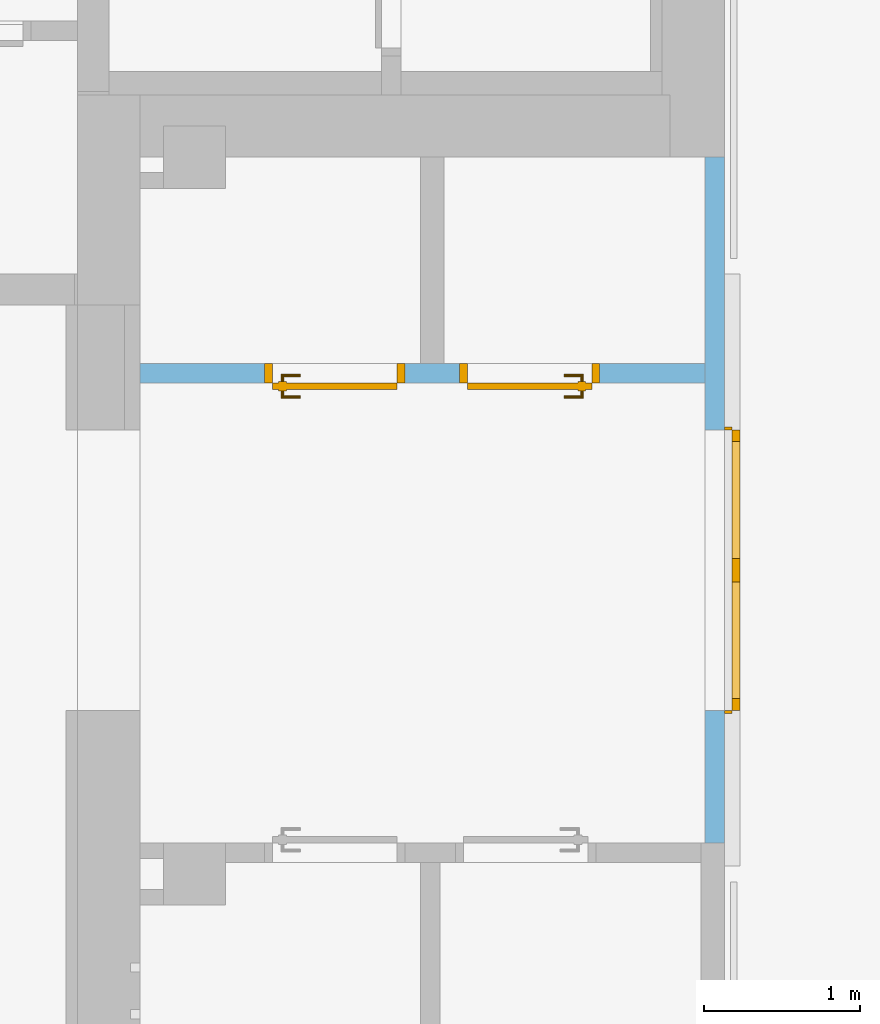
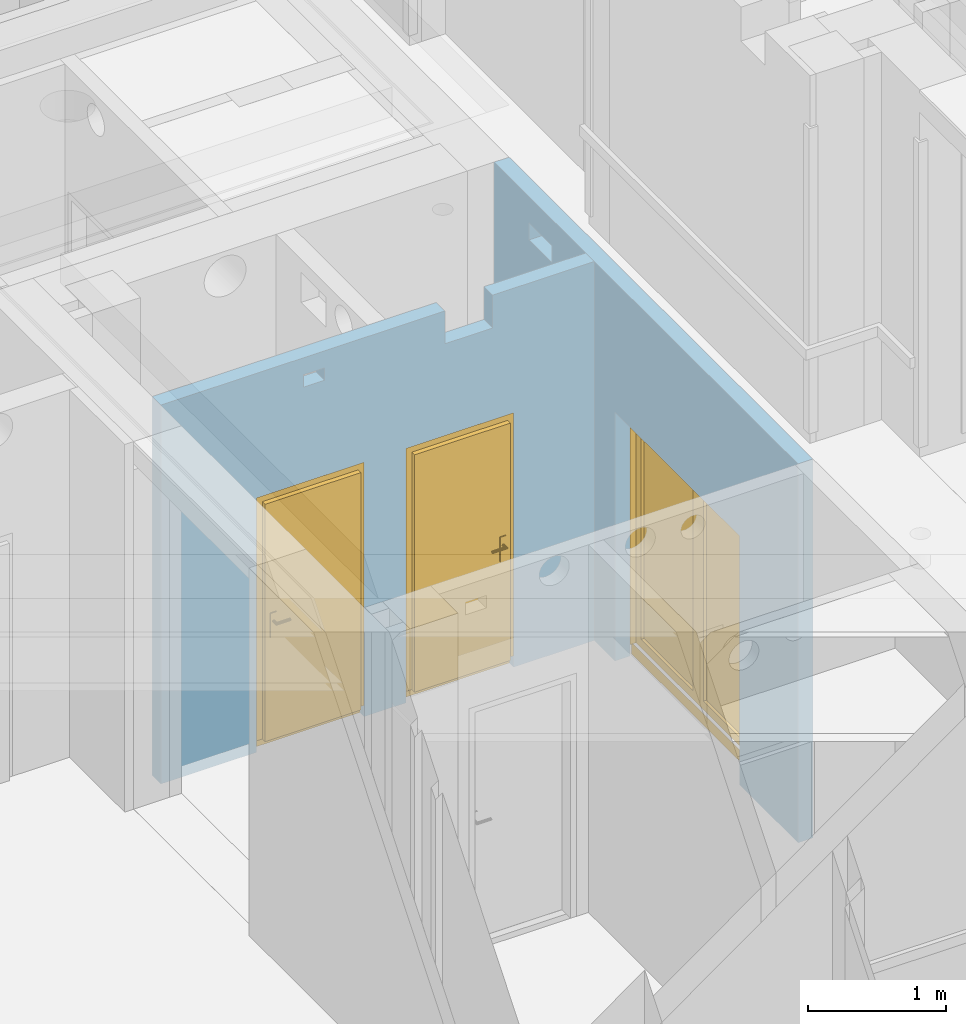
# One storey, part 76 of 140: 3 doors, 6 openings, plus 2 elements that do not belong to this part.
"""IFC4 building model written with IfcOpenShell, lengths in metres."""

from ifc_helpers import new_model, entity, si_unit, converted_unit, derived_unit, frame, frame_2d, origin, origin_with_axes, place, context, subcontext, project, spatial, polyline, rectangle, outline, extrude, closed_shell, open_shell, surface_model, source, transform, mapped, material, layer, layer_set, layer_usage, type_object, element, fill, save


model = new_model("IFC4")

# Units and contexts
model_context = context("Model", 3, precision=1e-05, world=origin())
body_context = subcontext(model_context, "Body", "Model", "MODEL_VIEW")
ifc_project = project(units=[si_unit("LENGTHUNIT", "METRE"), si_unit("AREAUNIT", "SQUARE_METRE"), si_unit("VOLUMEUNIT", "CUBIC_METRE"), si_unit("MASSUNIT", "GRAM", prefix="KILO"), converted_unit("PLANEANGLEUNIT", "DEGREE", entity("IfcPlaneAngleMeasure", 0.0174532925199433), si_unit("PLANEANGLEUNIT", "RADIAN"), dimensions=[0, 0, 0, 0, 0, 0, 0]), derived_unit("THERMALTRANSMITTANCEUNIT", [(si_unit("POWERUNIT", "WATT"), 1), (si_unit("THERMODYNAMICTEMPERATUREUNIT", "KELVIN"), -1), (si_unit("LENGTHUNIT", "METRE"), -2)]), derived_unit("VOLUMETRICFLOWRATEUNIT", [(si_unit("LENGTHUNIT", "METRE"), 3), (converted_unit("TIMEUNIT", "hour", entity("IfcTimeMeasure", 3600.0), si_unit("TIMEUNIT", "SECOND"), dimensions=[0, 0, 1, 0, 0, 0, 0]), -1), (si_unit("LENGTHUNIT", "METRE"), -1)])], contexts=[model_context])

# Site, building, storey
site_placement = place(None, origin())
site = spatial("IfcSite", under=ifc_project, at=site_placement, Name="3. ASŘ", CompositionType="ELEMENT")
building_placement = place(site_placement, origin())
building = spatial("IfcBuilding", under=site, at=building_placement, Name="Pavilon C", CompositionType="ELEMENT")
storey_placement = place(building_placement, origin())
storey = spatial("IfcBuildingStorey", under=building, at=storey_placement, Name="Půdorys 1.NP", CompositionType="ELEMENT", Elevation=0.0)

# Wall, openings, door
ifc_material_1 = material(Name="SDK - 1 KCE + DVOJITÉ OPLÁŠTĚNÍ")
ifc_layer_1 = layer(ifc_material_1, 0.125)
ifc_layer_set_1 = layer_set([ifc_layer_1])
ifc_layer_usage_1 = layer_usage(ifc_layer_set_1, "AXIS2", "POSITIVE", 0.0)
wall_1_placement = place(storey_placement, frame((40.95, -11.6, -0.1), z_axis=(0.0, 0.0, 1.0), x_axis=(0.0, 1.0, 0.0)))
wall_1 = element("IfcWall", 1, at=wall_1_placement, inside=storey, material=ifc_layer_usage_1, Name="SDK - 1 KCE + DVOJITÉ OPLÁŠTĚNÍ", context=body_context, shape_type="SweptSolid", body=[
    extrude(rectangle(XDim=4.4, YDim=0.125, at=frame_2d((2.2, 0.0625), x_axis=(1.0, 0.0))), origin_with_axes(), (0.0, 0.0, 1.0), 3.35),
])
opening_1_placement = place(wall_1_placement, frame((2.64999999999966, 0.125, 0.0), z_axis=(0.0, -1.0, 0.0), x_axis=(0.0, 0.0, 1.0)))
opening_1 = element("IfcOpeningElement", 2, at=opening_1_placement, cuts=wall_1, Name="Dveřní otvor", ObjectType="Opening", context=body_context, shape_type="SweptSolid", body=[
    extrude(outline(polyline([(0.0, 1.8), (2.2, 1.8), (2.2, 0.0), (0.0, 0.0), (0.0, 1.8)])), origin_with_axes(), (0.0, 0.0, 1.0), 0.125),
])
opening_2_placement = place(wall_1_placement, frame((3.56300000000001, 7.27595761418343e-15, 2.97), z_axis=(0.0, 1.0, 0.0), x_axis=(0.0, 0.0, 1.0)))
element("IfcOpeningElement", 3, at=opening_2_placement, cuts=wall_1, Name="ZTI", ObjectType="Opening", context=body_context, shape_type="SweptSolid", body=[
    extrude(outline(polyline([(0.0, 0.33), (0.15, 0.33), (0.15, 0.0), (0.0, 0.0), (0.0, 0.33)])), origin_with_axes(), (0.0, 0.0, 1.0), 0.125),
])
door_type_1 = type_object("IfcDoorType", Name="II.DH01", OperationType="NOTDEFINED", ParameterTakesPrecedence=False, PredefinedType="DOOR")
shared_shape_1 = source(origin_with_axes(), body_context, "Body", "SurfaceModel", [
    surface_model("IfcShellBasedSurfaceModel", [(0.0, 0.025, 0.0), (1.84, 0.025, 0.0), (1.84, 0.025, 0.1), (0.0, 0.025, 0.1)], [open_shell([[[0, 1, 2, 3]]], orient=[[False]])]),
    surface_model("IfcShellBasedSurfaceModel", [(0.0, 0.0500000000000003, 2.22), (0.0, 0.05, 0.101), (0.02, 0.05, 0.101), (0.02, 0.0500000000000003, 2.22), (0.0, 0.0, 0.101), (0.0, 2.62900812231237e-16, 2.22), (0.02, 2.62900812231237e-16, 2.22), (0.02, 0.0, 0.101)], [closed_shell([[[0, 1, 2, 3]], [[4, 5, 6, 7]], [[1, 0, 5, 4]], [[2, 1, 4, 7]], [[3, 2, 7, 6]], [[0, 3, 6, 5]]], orient=[[False], [False], [False], [False], [False], [False]])]),
    surface_model("IfcShellBasedSurfaceModel", [(1.82, 0.0500000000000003, 2.22), (1.82, 0.05, 0.101), (1.84, 0.05, 0.101), (1.84, 0.0500000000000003, 2.22), (1.82, 0.0, 0.101), (1.82, 2.62900812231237e-16, 2.22), (1.84, 2.62900812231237e-16, 2.22), (1.84, 0.0, 0.101)], [closed_shell([[[0, 1, 2, 3]], [[4, 5, 6, 7]], [[1, 0, 5, 4]], [[2, 1, 4, 7]], [[3, 2, 7, 6]], [[0, 3, 6, 5]]], orient=[[False], [False], [False], [False], [False], [False]])]),
    surface_model("IfcShellBasedSurfaceModel", [(0.02, 0.0500000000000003, 2.22), (0.02, 0.0500000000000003, 2.2), (1.82, 0.0500000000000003, 2.2), (1.82, 0.0500000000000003, 2.22), (0.02, 2.55795384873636e-16, 2.2), (0.02, 2.55795384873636e-16, 2.22), (1.82, 2.55795384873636e-16, 2.22), (1.82, 2.55795384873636e-16, 2.2)], [closed_shell([[[0, 1, 2, 3]], [[4, 5, 6, 7]], [[1, 0, 5, 4]], [[2, 1, 4, 7]], [[3, 2, 7, 6]], [[0, 3, 6, 5]]], orient=[[False], [False], [False], [False], [False], [False]])]),
    surface_model("IfcShellBasedSurfaceModel", [(0.02, 0.1, 2.2), (0.02, 0.1, 0.101), (0.095, 0.1, 0.101), (0.095, 0.1, 2.2), (0.02, 0.05, 0.101), (0.02, 0.0500000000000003, 2.2), (0.095, 0.0500000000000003, 2.2), (0.095, 0.05, 0.101)], [closed_shell([[[0, 1, 2, 3]], [[4, 5, 6, 7]], [[1, 0, 5, 4]], [[2, 1, 4, 7]], [[3, 2, 7, 6]], [[0, 3, 6, 5]]], orient=[[False], [False], [False], [False], [False], [False]])]),
    surface_model("IfcShellBasedSurfaceModel", [(0.8445, 0.1, 2.2), (0.8445, 0.1, 0.101), (0.9195, 0.1, 0.101), (0.9195, 0.1, 2.2), (0.8445, 0.05, 0.101), (0.8445, 0.0500000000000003, 2.2), (0.9195, 0.0500000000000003, 2.2), (0.9195, 0.05, 0.101)], [closed_shell([[[0, 1, 2, 3]], [[4, 5, 6, 7]], [[1, 0, 5, 4]], [[2, 1, 4, 7]], [[3, 2, 7, 6]], [[0, 3, 6, 5]]], orient=[[False], [False], [False], [False], [False], [False]])]),
    surface_model("IfcShellBasedSurfaceModel", [(0.095, 0.1, 0.176), (0.095, 0.1, 0.101), (0.8445, 0.1, 0.101), (0.8445, 0.1, 0.176), (0.095, 0.05, 0.101), (0.095, 0.05, 0.176), (0.8445, 0.05, 0.176), (0.8445, 0.05, 0.101)], [closed_shell([[[0, 1, 2, 3]], [[4, 5, 6, 7]], [[1, 0, 5, 4]], [[2, 1, 4, 7]], [[3, 2, 7, 6]], [[0, 3, 6, 5]]], orient=[[False], [False], [False], [False], [False], [False]])]),
    surface_model("IfcShellBasedSurfaceModel", [(0.095, 0.1, 2.2), (0.095, 0.1, 2.125), (0.8445, 0.1, 2.125), (0.8445, 0.1, 2.2), (0.095, 0.0500000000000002, 2.125), (0.095, 0.0500000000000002, 2.2), (0.8445, 0.0500000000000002, 2.2), (0.8445, 0.0500000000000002, 2.125)], [closed_shell([[[0, 1, 2, 3]], [[4, 5, 6, 7]], [[1, 0, 5, 4]], [[2, 1, 4, 7]], [[3, 2, 7, 6]], [[0, 3, 6, 5]]], orient=[[False], [False], [False], [False], [False], [False]])]),
    surface_model("IfcShellBasedSurfaceModel", [(0.9205, 0.1, 2.2), (0.9205, 0.1, 0.101), (0.9955, 0.1, 0.101), (0.9955, 0.1, 2.2), (0.9205, 0.05, 0.101), (0.9205, 0.0500000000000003, 2.2), (0.9955, 0.0500000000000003, 2.2), (0.9955, 0.05, 0.101)], [closed_shell([[[0, 1, 2, 3]], [[4, 5, 6, 7]], [[1, 0, 5, 4]], [[2, 1, 4, 7]], [[3, 2, 7, 6]], [[0, 3, 6, 5]]], orient=[[False], [False], [False], [False], [False], [False]])]),
    surface_model("IfcShellBasedSurfaceModel", [(1.745, 0.1, 2.2), (1.745, 0.1, 0.101), (1.82, 0.1, 0.101), (1.82, 0.1, 2.2), (1.745, 0.05, 0.101), (1.745, 0.0500000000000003, 2.2), (1.82, 0.0500000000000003, 2.2), (1.82, 0.05, 0.101)], [closed_shell([[[0, 1, 2, 3]], [[4, 5, 6, 7]], [[1, 0, 5, 4]], [[2, 1, 4, 7]], [[3, 2, 7, 6]], [[0, 3, 6, 5]]], orient=[[False], [False], [False], [False], [False], [False]])]),
    surface_model("IfcShellBasedSurfaceModel", [(0.9955, 0.1, 0.176), (0.9955, 0.1, 0.101), (1.745, 0.1, 0.101), (1.745, 0.1, 0.176), (0.9955, 0.05, 0.101), (0.9955, 0.05, 0.176), (1.745, 0.05, 0.176), (1.745, 0.05, 0.101)], [closed_shell([[[0, 1, 2, 3]], [[4, 5, 6, 7]], [[1, 0, 5, 4]], [[2, 1, 4, 7]], [[3, 2, 7, 6]], [[0, 3, 6, 5]]], orient=[[False], [False], [False], [False], [False], [False]])]),
    surface_model("IfcShellBasedSurfaceModel", [(0.9955, 0.1, 2.2), (0.9955, 0.1, 2.125), (1.745, 0.1, 2.125), (1.745, 0.1, 2.2), (0.9955, 0.0500000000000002, 2.125), (0.9955, 0.0500000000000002, 2.2), (1.745, 0.0500000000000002, 2.2), (1.745, 0.0500000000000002, 2.125)], [closed_shell([[[0, 1, 2, 3]], [[4, 5, 6, 7]], [[1, 0, 5, 4]], [[2, 1, 4, 7]], [[3, 2, 7, 6]], [[0, 3, 6, 5]]], orient=[[False], [False], [False], [False], [False], [False]])]),
    surface_model("IfcShellBasedSurfaceModel", [(0.9955, 0.075, 0.176), (1.745, 0.075, 0.176), (1.745, 0.0750000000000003, 2.125), (0.9955, 0.0750000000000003, 2.125)], [open_shell([[[0, 1, 2, 3]]], orient=[[False]])]),
    surface_model("IfcShellBasedSurfaceModel", [(0.095, 0.075, 0.176), (0.8445, 0.075, 0.176), (0.8445, 0.0750000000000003, 2.125), (0.095, 0.0750000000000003, 2.125)], [open_shell([[[0, 1, 2, 3]]], orient=[[False]])]),
])
door_1_placement = place(opening_1_placement, frame((0.0, -0.0200000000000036, 0.124999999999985), z_axis=(1.0, 0.0, 0.0), x_axis=(0.0, 1.0, 1.22464679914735e-16)))
door_1 = element("IfcDoor", 4, at=door_1_placement, inside=storey, type_object=door_type_1, Name="II.DH01", OverallHeight=2.24, OverallWidth=1.88, context=body_context, shape_type="MappedRepresentation", body=[
    mapped(shared_shape_1, transform((0.0, 0.0, 0.0), x_axis=(1.0, 0.0, 0.0), y_axis=(0.0, 1.0, 0.0), z_axis=(0.0, 0.0, 1.0), scale=1.0)),
])
fill(opening_1, door_1)

# Wall, openings, doors
ifc_material_2 = material(Name="SDK - 1 KCE + DVOJITÉ OPLÁŠTĚNÍ")
ifc_layer_2 = layer(ifc_material_2, 0.125)
ifc_layer_set_2 = layer_set([ifc_layer_2])
ifc_layer_usage_2 = layer_usage(ifc_layer_set_2, "AXIS2", "POSITIVE", -0.125)
wall_2_placement = place(storey_placement, frame((40.825, -8.525, -0.1), z_axis=(0.0, 0.0, 1.0), x_axis=(-1.0, 0.0, 0.0)))
wall_2 = element("IfcWall", 5, at=wall_2_placement, inside=storey, material=ifc_layer_usage_2, Name="SDK - 1 KCE + DVOJITÉ OPLÁŠTĚNÍ", context=body_context, shape_type="SweptSolid", body=[
    extrude(rectangle(XDim=3.625, YDim=0.125, at=frame_2d((1.8125, 0.0625), x_axis=(1.0, 0.0))), origin_with_axes(), (0.0, 0.0, 1.0), 3.35),
])
opening_3_placement = place(wall_2_placement, frame((1.92499999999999, 0.0, 0.0), z_axis=(0.0, 1.0, 0.0), x_axis=(0.0, 0.0, 1.0)))
opening_3 = element("IfcOpeningElement", 6, at=opening_3_placement, cuts=wall_2, Name="Dveřní otvor", ObjectType="Opening", context=body_context, shape_type="SweptSolid", body=[
    extrude(outline(polyline([(0.0, 0.9), (2.25, 0.9), (2.25, 0.0), (0.0, 0.0), (0.0, 0.9)])), origin_with_axes(), (0.0, 0.0, 1.0), 0.125),
])
opening_4_placement = place(wall_2_placement, frame((0.675, 0.0, 0.0), z_axis=(0.0, 1.0, 0.0), x_axis=(0.0, 0.0, 1.0)))
opening_4 = element("IfcOpeningElement", 7, at=opening_4_placement, cuts=wall_2, Name="Dveřní otvor", ObjectType="Opening", context=body_context, shape_type="SweptSolid", body=[
    extrude(outline(polyline([(0.0, 0.9), (2.25, 0.9), (2.25, 0.0), (0.0, 0.0), (0.0, 0.9)])), origin_with_axes(), (0.0, 0.0, 1.0), 0.125),
])
opening_5_placement = place(wall_2_placement, frame((2.42988110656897, 0.125, 3.09), z_axis=(0.0, -1.0, 0.0), x_axis=(0.0, 0.0, 1.0)))
element("IfcOpeningElement", 8, at=opening_5_placement, cuts=wall_2, Name="ZTI", ObjectType="Opening", context=body_context, shape_type="SweptSolid", body=[
    extrude(outline(polyline([(0.0, 0.175), (0.11, 0.175), (0.11, 0.0), (0.0, 0.0), (0.0, 0.175)])), origin_with_axes(), (0.0, 0.0, 1.0), 0.125),
])
opening_6_placement = place(wall_2_placement, frame((0.85, 0.0, 3.06), z_axis=(0.0, 1.0, 0.0), x_axis=(0.0, 0.0, 1.0)))
element("IfcOpeningElement", 9, at=opening_6_placement, cuts=wall_2, Name="VZT+ZTI", ObjectType="Opening", context=body_context, shape_type="SweptSolid", body=[
    extrude(outline(polyline([(0.0, 0.4), (0.29, 0.4), (0.29, 0.0), (0.0, 0.0), (0.0, 0.4)])), origin_with_axes(), (0.0, 0.0, 1.0), 0.125),
])
door_type_2 = type_object("IfcDoorType", Name="II.D08", OperationType="NOTDEFINED", ParameterTakesPrecedence=False, PredefinedType="DOOR")
shared_shape_2 = source(origin_with_axes(), body_context, "Body", "SurfaceModel", [
    surface_model("IfcShellBasedSurfaceModel", [(0.0, 0.0625, 0.0), (0.9, 0.0625, 0.0), (0.9, 0.0625, 0.1), (0.0, 0.0625, 0.1)], [open_shell([[[0, 1, 2, 3]]], orient=[[False]])]),
    surface_model("IfcShellBasedSurfaceModel", [(0.0, 0.125, 2.25), (0.0, 0.125, 0.101), (0.05, 0.125, 0.101), (0.05, 0.125, 2.25), (0.0, 0.0, 0.101), (0.0, 2.70006239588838e-16, 2.25), (0.05, 2.70006239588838e-16, 2.25), (0.05, 0.0, 0.101)], [closed_shell([[[0, 1, 2, 3]], [[4, 5, 6, 7]], [[1, 0, 5, 4]], [[2, 1, 4, 7]], [[3, 2, 7, 6]], [[0, 3, 6, 5]]], orient=[[False], [False], [False], [False], [False], [False]])]),
    surface_model("IfcShellBasedSurfaceModel", [(0.85, 0.125, 2.25), (0.85, 0.125, 0.101), (0.9, 0.125, 0.101), (0.9, 0.125, 2.25), (0.85, 0.0, 0.101), (0.85, 2.70006239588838e-16, 2.25), (0.9, 2.70006239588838e-16, 2.25), (0.9, 0.0, 0.101)], [closed_shell([[[0, 1, 2, 3]], [[4, 5, 6, 7]], [[1, 0, 5, 4]], [[2, 1, 4, 7]], [[3, 2, 7, 6]], [[0, 3, 6, 5]]], orient=[[False], [False], [False], [False], [False], [False]])]),
    surface_model("IfcShellBasedSurfaceModel", [(0.05, 0.125, 2.25), (0.05, 0.125, 2.2), (0.85, 0.125, 2.2), (0.85, 0.125, 2.25), (0.05, 2.55795384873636e-16, 2.2), (0.05, 2.55795384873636e-16, 2.25), (0.85, 2.55795384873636e-16, 2.25), (0.85, 2.55795384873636e-16, 2.2)], [closed_shell([[[0, 1, 2, 3]], [[4, 5, 6, 7]], [[1, 0, 5, 4]], [[2, 1, 4, 7]], [[3, 2, 7, 6]], [[0, 3, 6, 5]]], orient=[[False], [False], [False], [False], [False], [False]])]),
    surface_model("IfcShellBasedSurfaceModel", [(0.05, 0.165, 2.2), (0.05, 0.165, 0.101), (0.85, 0.165, 0.101), (0.85, 0.165, 2.2), (0.05, 0.125, 0.101), (0.05, 0.125, 2.2), (0.85, 0.125, 2.2), (0.85, 0.125, 0.101)], [closed_shell([[[0, 1, 2, 3]], [[4, 5, 6, 7]], [[1, 0, 5, 4]], [[2, 1, 4, 7]], [[3, 2, 7, 6]], [[0, 3, 6, 5]]], orient=[[False], [False], [False], [False], [False], [False]])]),
    surface_model("IfcShellBasedSurfaceModel", [(0.76, 0.125, 1.226), (0.76, 0.125, 1.011), (0.81, 0.125, 1.011), (0.81, 0.125, 1.226), (0.76, 0.115, 1.011), (0.76, 0.115, 1.226), (0.81, 0.115, 1.226), (0.81, 0.115, 1.011)], [closed_shell([[[0, 1, 2, 3]], [[4, 5, 6, 7]], [[1, 0, 5, 4]], [[2, 1, 4, 7]], [[3, 2, 7, 6]], [[0, 3, 6, 5]]], orient=[[False], [False], [False], [False], [False], [False]])]),
    surface_model("IfcShellBasedSurfaceModel", [(0.785, 0.115, 1.161), (0.78, 0.115, 1.15966025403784), (0.776339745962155, 0.115, 1.156), (0.775, 0.115, 1.151), (0.776339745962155, 0.115, 1.146), (0.78, 0.115, 1.14233974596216), (0.785, 0.115, 1.141), (0.79, 0.115, 1.14233974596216), (0.793660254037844, 0.115, 1.146), (0.795, 0.115, 1.151), (0.793660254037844, 0.115, 1.156), (0.79, 0.115, 1.15966025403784), (0.79, 0.0700000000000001, 1.15966025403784), (0.785, 0.0750000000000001, 1.161), (0.793660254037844, 0.0663397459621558, 1.156), (0.795, 0.0650000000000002, 1.151), (0.793660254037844, 0.0663397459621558, 1.146), (0.79, 0.0700000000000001, 1.14233974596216), (0.785, 0.0750000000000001, 1.141), (0.78, 0.0800000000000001, 1.14233974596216), (0.776339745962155, 0.0836602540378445, 1.146), (0.775, 0.0850000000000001, 1.151), (0.776339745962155, 0.0836602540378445, 1.156), (0.78, 0.0800000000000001, 1.15966025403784), (0.67, 0.0700000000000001, 1.15966025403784), (0.67, 0.0750000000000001, 1.161), (0.67, 0.0663397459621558, 1.156), (0.67, 0.0650000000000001, 1.151), (0.67, 0.0663397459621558, 1.146), (0.67, 0.0700000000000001, 1.14233974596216), (0.67, 0.0750000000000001, 1.141), (0.67, 0.0800000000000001, 1.14233974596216), (0.67, 0.0836602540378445, 1.146), (0.67, 0.0850000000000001, 1.151), (0.67, 0.0836602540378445, 1.156), (0.67, 0.0800000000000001, 1.15966025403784)], [open_shell([[[0, 1, 2, 3, 4, 5, 6, 7, 8, 9, 10, 11]], [[0, 11, 12, 13]], [[11, 10, 14, 12]], [[10, 9, 15, 14]], [[9, 8, 16, 15]], [[8, 7, 17, 16]], [[7, 6, 18, 17]], [[6, 5, 19, 18]], [[5, 4, 20, 19]], [[4, 3, 21, 20]], [[3, 2, 22, 21]], [[2, 1, 23, 22]], [[1, 0, 13, 23]], [[13, 12, 24, 25]], [[12, 14, 26, 24]], [[14, 15, 27, 26]], [[15, 16, 28, 27]], [[16, 17, 29, 28]], [[17, 18, 30, 29]], [[18, 19, 31, 30]], [[19, 20, 32, 31]], [[20, 21, 33, 32]], [[21, 22, 34, 33]], [[22, 23, 35, 34]], [[23, 13, 25, 35]]], orient=[[False], [False], [False], [False], [False], [False], [False], [False], [False], [False], [False], [False], [False], [False], [False], [False], [False], [False], [False], [False], [False], [False], [False], [False], [False]])]),
    surface_model("IfcShellBasedSurfaceModel", [(0.76, 0.165, 1.226), (0.81, 0.165, 1.226), (0.81, 0.165, 1.011), (0.76, 0.165, 1.011), (0.76, 0.175, 1.011), (0.81, 0.175, 1.011), (0.81, 0.175, 1.226), (0.76, 0.175, 1.226)], [closed_shell([[[0, 1, 2, 3]], [[4, 5, 6, 7]], [[3, 4, 7, 0]], [[2, 5, 4, 3]], [[1, 6, 5, 2]], [[0, 7, 6, 1]]], orient=[[False], [False], [False], [False], [False], [False]])]),
    surface_model("IfcShellBasedSurfaceModel", [(0.785, 0.175, 1.161), (0.79, 0.175, 1.15966025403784), (0.793660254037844, 0.175, 1.156), (0.795, 0.175, 1.151), (0.793660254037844, 0.175, 1.146), (0.79, 0.175, 1.14233974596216), (0.785, 0.175, 1.141), (0.78, 0.175, 1.14233974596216), (0.776339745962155, 0.175, 1.146), (0.775, 0.175, 1.151), (0.776339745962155, 0.175, 1.156), (0.78, 0.175, 1.15966025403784), (0.785, 0.215, 1.161), (0.79, 0.22, 1.15966025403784), (0.793660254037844, 0.223660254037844, 1.156), (0.795, 0.225, 1.151), (0.793660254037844, 0.223660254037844, 1.146), (0.79, 0.22, 1.14233974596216), (0.785, 0.215, 1.141), (0.78, 0.21, 1.14233974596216), (0.776339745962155, 0.206339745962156, 1.146), (0.775, 0.205, 1.151), (0.776339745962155, 0.206339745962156, 1.156), (0.78, 0.21, 1.15966025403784), (0.67, 0.215, 1.161), (0.67, 0.22, 1.15966025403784), (0.67, 0.223660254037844, 1.156), (0.67, 0.225, 1.151), (0.67, 0.223660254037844, 1.146), (0.67, 0.22, 1.14233974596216), (0.67, 0.215, 1.141), (0.67, 0.21, 1.14233974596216), (0.67, 0.206339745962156, 1.146), (0.67, 0.205, 1.151), (0.67, 0.206339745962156, 1.156), (0.67, 0.21, 1.15966025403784)], [open_shell([[[0, 1, 2, 3, 4, 5, 6, 7, 8, 9, 10, 11]], [[0, 12, 13, 1]], [[1, 13, 14, 2]], [[2, 14, 15, 3]], [[3, 15, 16, 4]], [[4, 16, 17, 5]], [[5, 17, 18, 6]], [[6, 18, 19, 7]], [[7, 19, 20, 8]], [[8, 20, 21, 9]], [[9, 21, 22, 10]], [[10, 22, 23, 11]], [[11, 23, 12, 0]], [[12, 24, 25, 13]], [[13, 25, 26, 14]], [[14, 26, 27, 15]], [[15, 27, 28, 16]], [[16, 28, 29, 17]], [[17, 29, 30, 18]], [[18, 30, 31, 19]], [[19, 31, 32, 20]], [[20, 32, 33, 21]], [[21, 33, 34, 22]], [[22, 34, 35, 23]], [[23, 35, 24, 12]]], orient=[[False], [False], [False], [False], [False], [False], [False], [False], [False], [False], [False], [False], [False], [False], [False], [False], [False], [False], [False], [False], [False], [False], [False], [False], [False]])]),
])
door_2_placement = place(opening_3_placement, frame((0.0, 0.0, 0.0), z_axis=(1.0, 0.0, 0.0), x_axis=(0.0, 1.0, -1.22464679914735e-16)))
door_2 = element("IfcDoor", 10, at=door_2_placement, inside=storey, type_object=door_type_2, Name="II.D08", OverallHeight=2.25, OverallWidth=0.9, context=body_context, shape_type="MappedRepresentation", body=[
    mapped(shared_shape_2, transform((0.0, 0.0, 0.0), x_axis=(1.0, 0.0, 0.0), y_axis=(0.0, 1.0, 0.0), z_axis=(0.0, 0.0, 1.0), scale=1.0)),
])
fill(opening_3, door_2)
door_type_3 = type_object("IfcDoorType", Name="II.D09", OperationType="NOTDEFINED", ParameterTakesPrecedence=False, PredefinedType="DOOR")
shared_shape_3 = source(origin_with_axes(), body_context, "Body", "SurfaceModel", [
    surface_model("IfcShellBasedSurfaceModel", [(0.0, 0.0625, 0.0), (0.9, 0.0625, 0.0), (0.9, 0.0625, 0.1), (0.0, 0.0625, 0.1)], [open_shell([[[0, 1, 2, 3]]], orient=[[False]])]),
    surface_model("IfcShellBasedSurfaceModel", [(0.0, 0.125, 2.25), (0.0, 0.125, 0.101), (0.05, 0.125, 0.101), (0.05, 0.125, 2.25), (0.0, 0.0, 0.101), (0.0, 2.70006239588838e-16, 2.25), (0.05, 2.70006239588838e-16, 2.25), (0.05, 0.0, 0.101)], [closed_shell([[[0, 1, 2, 3]], [[4, 5, 6, 7]], [[1, 0, 5, 4]], [[2, 1, 4, 7]], [[3, 2, 7, 6]], [[0, 3, 6, 5]]], orient=[[False], [False], [False], [False], [False], [False]])]),
    surface_model("IfcShellBasedSurfaceModel", [(0.85, 0.125, 2.25), (0.85, 0.125, 0.101), (0.9, 0.125, 0.101), (0.9, 0.125, 2.25), (0.85, 0.0, 0.101), (0.85, 2.70006239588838e-16, 2.25), (0.9, 2.70006239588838e-16, 2.25), (0.9, 0.0, 0.101)], [closed_shell([[[0, 1, 2, 3]], [[4, 5, 6, 7]], [[1, 0, 5, 4]], [[2, 1, 4, 7]], [[3, 2, 7, 6]], [[0, 3, 6, 5]]], orient=[[False], [False], [False], [False], [False], [False]])]),
    surface_model("IfcShellBasedSurfaceModel", [(0.05, 0.125, 2.25), (0.05, 0.125, 2.2), (0.85, 0.125, 2.2), (0.85, 0.125, 2.25), (0.05, 2.55795384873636e-16, 2.2), (0.05, 2.55795384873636e-16, 2.25), (0.85, 2.55795384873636e-16, 2.25), (0.85, 2.55795384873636e-16, 2.2)], [closed_shell([[[0, 1, 2, 3]], [[4, 5, 6, 7]], [[1, 0, 5, 4]], [[2, 1, 4, 7]], [[3, 2, 7, 6]], [[0, 3, 6, 5]]], orient=[[False], [False], [False], [False], [False], [False]])]),
    surface_model("IfcShellBasedSurfaceModel", [(0.05, 0.165, 2.2), (0.05, 0.165, 0.101), (0.85, 0.165, 0.101), (0.85, 0.165, 2.2), (0.05, 0.125, 0.101), (0.05, 0.125, 2.2), (0.85, 0.125, 2.2), (0.85, 0.125, 0.101)], [closed_shell([[[0, 1, 2, 3]], [[4, 5, 6, 7]], [[1, 0, 5, 4]], [[2, 1, 4, 7]], [[3, 2, 7, 6]], [[0, 3, 6, 5]]], orient=[[False], [False], [False], [False], [False], [False]])]),
    surface_model("IfcShellBasedSurfaceModel", [(0.76, 0.125, 1.226), (0.76, 0.125, 1.011), (0.81, 0.125, 1.011), (0.81, 0.125, 1.226), (0.76, 0.115, 1.011), (0.76, 0.115, 1.226), (0.81, 0.115, 1.226), (0.81, 0.115, 1.011)], [closed_shell([[[0, 1, 2, 3]], [[4, 5, 6, 7]], [[1, 0, 5, 4]], [[2, 1, 4, 7]], [[3, 2, 7, 6]], [[0, 3, 6, 5]]], orient=[[False], [False], [False], [False], [False], [False]])]),
    surface_model("IfcShellBasedSurfaceModel", [(0.785, 0.115, 1.161), (0.78, 0.115, 1.15966025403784), (0.776339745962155, 0.115, 1.156), (0.775, 0.115, 1.151), (0.776339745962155, 0.115, 1.146), (0.78, 0.115, 1.14233974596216), (0.785, 0.115, 1.141), (0.79, 0.115, 1.14233974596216), (0.793660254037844, 0.115, 1.146), (0.795, 0.115, 1.151), (0.793660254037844, 0.115, 1.156), (0.79, 0.115, 1.15966025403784), (0.79, 0.0700000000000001, 1.15966025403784), (0.785, 0.0750000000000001, 1.161), (0.793660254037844, 0.0663397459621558, 1.156), (0.795, 0.0650000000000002, 1.151), (0.793660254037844, 0.0663397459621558, 1.146), (0.79, 0.0700000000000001, 1.14233974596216), (0.785, 0.0750000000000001, 1.141), (0.78, 0.0800000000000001, 1.14233974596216), (0.776339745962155, 0.0836602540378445, 1.146), (0.775, 0.0850000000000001, 1.151), (0.776339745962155, 0.0836602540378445, 1.156), (0.78, 0.0800000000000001, 1.15966025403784), (0.67, 0.0700000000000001, 1.15966025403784), (0.67, 0.0750000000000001, 1.161), (0.67, 0.0663397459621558, 1.156), (0.67, 0.0650000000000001, 1.151), (0.67, 0.0663397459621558, 1.146), (0.67, 0.0700000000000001, 1.14233974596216), (0.67, 0.0750000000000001, 1.141), (0.67, 0.0800000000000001, 1.14233974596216), (0.67, 0.0836602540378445, 1.146), (0.67, 0.0850000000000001, 1.151), (0.67, 0.0836602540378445, 1.156), (0.67, 0.0800000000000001, 1.15966025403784)], [open_shell([[[0, 1, 2, 3, 4, 5, 6, 7, 8, 9, 10, 11]], [[0, 11, 12, 13]], [[11, 10, 14, 12]], [[10, 9, 15, 14]], [[9, 8, 16, 15]], [[8, 7, 17, 16]], [[7, 6, 18, 17]], [[6, 5, 19, 18]], [[5, 4, 20, 19]], [[4, 3, 21, 20]], [[3, 2, 22, 21]], [[2, 1, 23, 22]], [[1, 0, 13, 23]], [[13, 12, 24, 25]], [[12, 14, 26, 24]], [[14, 15, 27, 26]], [[15, 16, 28, 27]], [[16, 17, 29, 28]], [[17, 18, 30, 29]], [[18, 19, 31, 30]], [[19, 20, 32, 31]], [[20, 21, 33, 32]], [[21, 22, 34, 33]], [[22, 23, 35, 34]], [[23, 13, 25, 35]]], orient=[[False], [False], [False], [False], [False], [False], [False], [False], [False], [False], [False], [False], [False], [False], [False], [False], [False], [False], [False], [False], [False], [False], [False], [False], [False]])]),
    surface_model("IfcShellBasedSurfaceModel", [(0.76, 0.165, 1.226), (0.81, 0.165, 1.226), (0.81, 0.165, 1.011), (0.76, 0.165, 1.011), (0.76, 0.175, 1.011), (0.81, 0.175, 1.011), (0.81, 0.175, 1.226), (0.76, 0.175, 1.226)], [closed_shell([[[0, 1, 2, 3]], [[4, 5, 6, 7]], [[3, 4, 7, 0]], [[2, 5, 4, 3]], [[1, 6, 5, 2]], [[0, 7, 6, 1]]], orient=[[False], [False], [False], [False], [False], [False]])]),
    surface_model("IfcShellBasedSurfaceModel", [(0.785, 0.175, 1.161), (0.79, 0.175, 1.15966025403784), (0.793660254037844, 0.175, 1.156), (0.795, 0.175, 1.151), (0.793660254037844, 0.175, 1.146), (0.79, 0.175, 1.14233974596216), (0.785, 0.175, 1.141), (0.78, 0.175, 1.14233974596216), (0.776339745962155, 0.175, 1.146), (0.775, 0.175, 1.151), (0.776339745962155, 0.175, 1.156), (0.78, 0.175, 1.15966025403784), (0.785, 0.215, 1.161), (0.79, 0.22, 1.15966025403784), (0.793660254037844, 0.223660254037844, 1.156), (0.795, 0.225, 1.151), (0.793660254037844, 0.223660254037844, 1.146), (0.79, 0.22, 1.14233974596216), (0.785, 0.215, 1.141), (0.78, 0.21, 1.14233974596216), (0.776339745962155, 0.206339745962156, 1.146), (0.775, 0.205, 1.151), (0.776339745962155, 0.206339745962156, 1.156), (0.78, 0.21, 1.15966025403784), (0.67, 0.215, 1.161), (0.67, 0.22, 1.15966025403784), (0.67, 0.223660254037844, 1.156), (0.67, 0.225, 1.151), (0.67, 0.223660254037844, 1.146), (0.67, 0.22, 1.14233974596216), (0.67, 0.215, 1.141), (0.67, 0.21, 1.14233974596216), (0.67, 0.206339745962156, 1.146), (0.67, 0.205, 1.151), (0.67, 0.206339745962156, 1.156), (0.67, 0.21, 1.15966025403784)], [open_shell([[[0, 1, 2, 3, 4, 5, 6, 7, 8, 9, 10, 11]], [[0, 12, 13, 1]], [[1, 13, 14, 2]], [[2, 14, 15, 3]], [[3, 15, 16, 4]], [[4, 16, 17, 5]], [[5, 17, 18, 6]], [[6, 18, 19, 7]], [[7, 19, 20, 8]], [[8, 20, 21, 9]], [[9, 21, 22, 10]], [[10, 22, 23, 11]], [[11, 23, 12, 0]], [[12, 24, 25, 13]], [[13, 25, 26, 14]], [[14, 26, 27, 15]], [[15, 27, 28, 16]], [[16, 28, 29, 17]], [[17, 29, 30, 18]], [[18, 30, 31, 19]], [[19, 31, 32, 20]], [[20, 32, 33, 21]], [[21, 33, 34, 22]], [[22, 34, 35, 23]], [[23, 35, 24, 12]]], orient=[[False], [False], [False], [False], [False], [False], [False], [False], [False], [False], [False], [False], [False], [False], [False], [False], [False], [False], [False], [False], [False], [False], [False], [False], [False]])]),
])
door_3_placement = place(opening_4_placement, frame((0.0, 0.9, 0.0), z_axis=(1.0, 0.0, 0.0), x_axis=(0.0, -1.0, 1.22464679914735e-16)))
door_3 = element("IfcDoor", 11, at=door_3_placement, inside=storey, type_object=door_type_3, Name="II.D09", OverallHeight=2.25, OverallWidth=0.9, context=body_context, shape_type="MappedRepresentation", body=[
    mapped(shared_shape_3, transform((0.0, 0.0, 0.0), x_axis=(1.0, 0.0, 0.0), y_axis=(0.0, -1.0, 0.0), z_axis=(0.0, 0.0, 1.0), scale=1.0)),
])
fill(opening_4, door_3)

save(model, "model.ifc")
